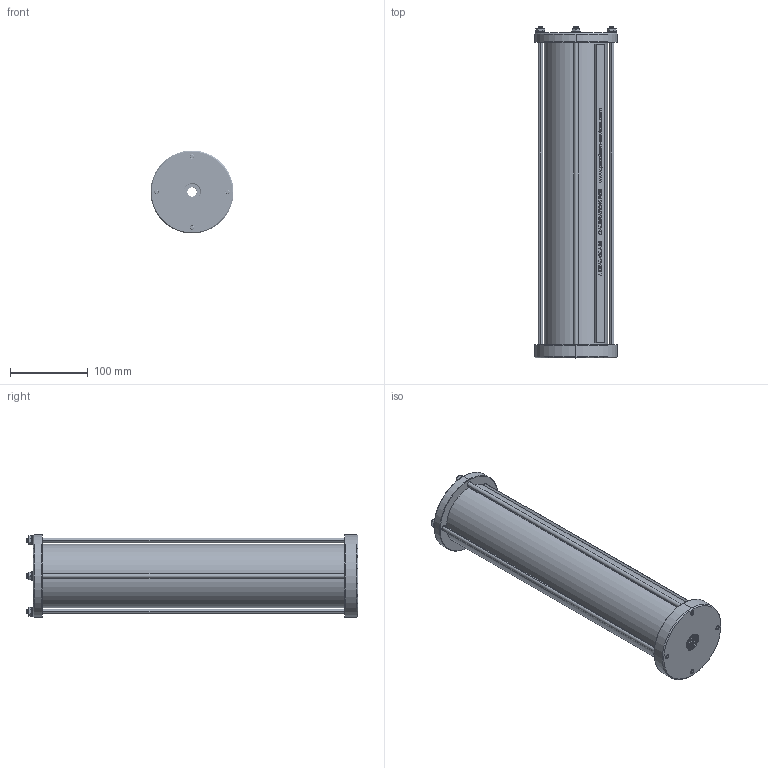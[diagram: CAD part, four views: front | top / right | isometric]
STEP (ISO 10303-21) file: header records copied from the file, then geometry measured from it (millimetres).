
FILE_DESCRIPTION (( 'STEP AP214' ), '1' );
FILE_NAME ('1.5LTR-C-11-34.STEP', '2025-08-19T14:15:16', ( '' ), ( '' ), 'SwSTEP 2.0', 'SolidWorks 2024', '' );
FILE_SCHEMA (( 'AUTOMOTIVE_DESIGN' ));
Length unit declared in the file: millimetre
Products named in the file (1): 1.5LTR-C-11-34
Bounding box: 107 x 428 x 107 mm (x, y, z)
Volume: 646141.9 mm3; surface area: 303829.4 mm2
Topology: 16 solids, 16 shells, 1494 faces, 3896 edges, 2512 vertices
Faces by surface type: cylinder 514, plane 455, bspline 349, cone 88, sphere 72, torus 16
Entity records: 109009 total; most frequent: CARTESIAN_POINT 60559, ORIENTED_EDGE 7792, DIRECTION 5052, EDGE_CURVE 3896, VERTEX_POINT 2512, VECTOR 1806, LINE 1806, AXIS2_PLACEMENT_3D 1623
